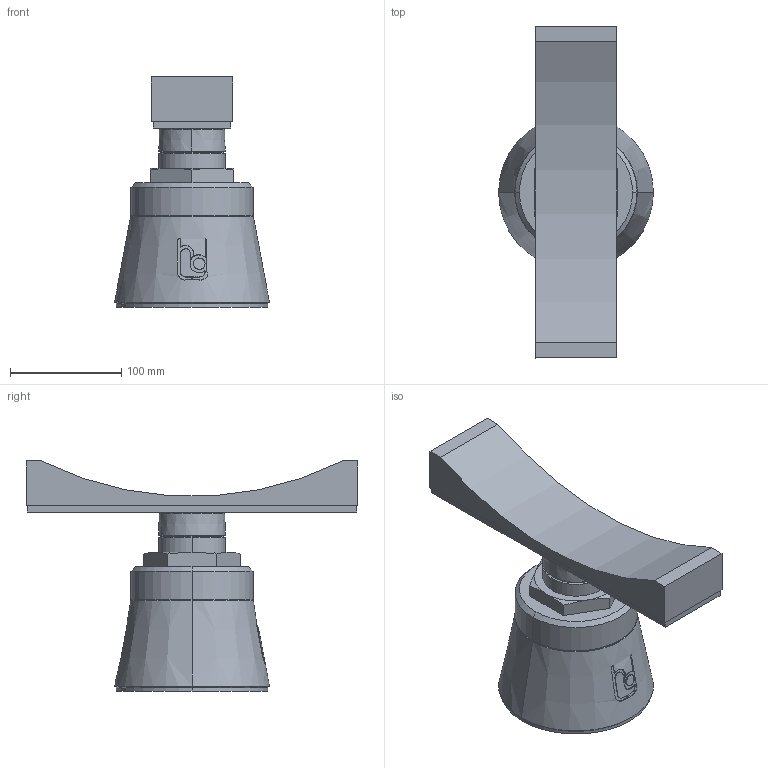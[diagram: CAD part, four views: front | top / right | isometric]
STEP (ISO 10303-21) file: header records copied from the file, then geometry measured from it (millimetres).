
FILE_DESCRIPTION(('STEP AP214'),'1');
FILE_NAME('RSRFS2_DN600.stp','2018-07-02T06:26:46',(' '),(' '),'Spatial InterOp 3D',' ',' ');
FILE_SCHEMA(('automotive_design'));
Length unit declared in the file: millimetre
Products named in the file (6): 1; 2; 3; 4; 5; 6
Bounding box: 139.44 x 299 x 207.28 mm (x, y, z)
Volume: 2309259.8 mm3; surface area: 261066 mm2
Topology: 6 solids, 6 shells, 127 faces, 313 edges, 202 vertices
Faces by surface type: plane 59, cylinder 37, cone 27, torus 4
Entity records: 5434 total; most frequent: CARTESIAN_POINT 1283, DIRECTION 639, ORIENTED_EDGE 626, EDGE_CURVE 313, AXIS2_PLACEMENT_3D 242, VERTEX_POINT 202, LINE 155, VECTOR 155
